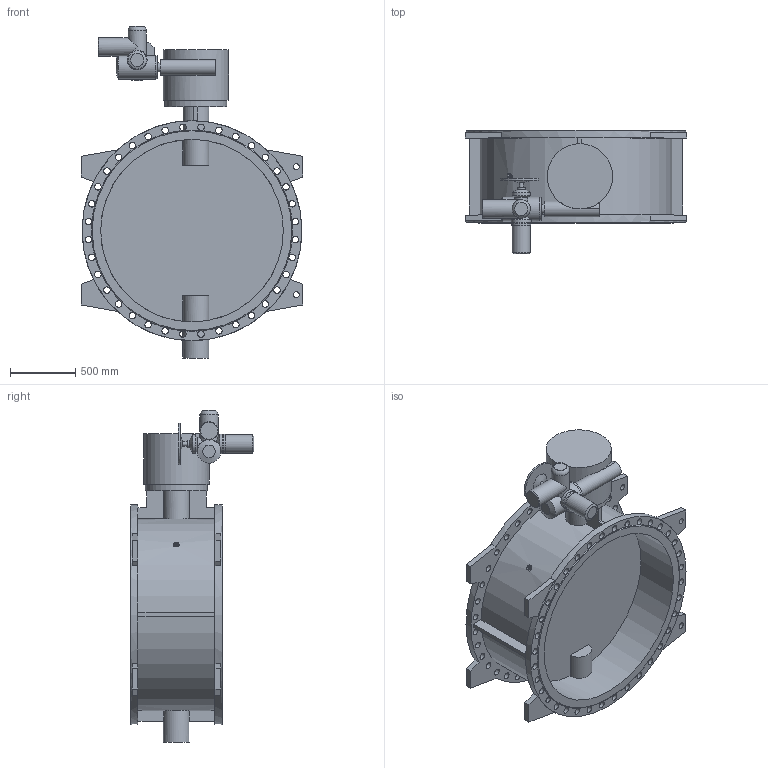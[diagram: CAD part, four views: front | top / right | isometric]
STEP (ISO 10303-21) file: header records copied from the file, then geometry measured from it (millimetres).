
FILE_DESCRIPTION(('STEP AP203'), '1');
FILE_NAME('Çàòâîð 023F.Z DN1400 PN16 + ðåäóêòîð + ÌÒ903.À30', '', ('UNSPECIFIED'), ('UNSPECIFIED'), 'ASCON STEP Converter 1.6', 'ASCON Math Kernel', '');
FILE_SCHEMA(('CONFIG_CONTROL_DESIGN'));
Length unit declared in the file: millimetre
Bounding box: 1700 x 949 x 2544 mm (x, y, z)
Volume: 473346768.9 mm3; surface area: 15095078.5 mm2
Topology: 1 solids, 1 shells, 272 faces, 816 edges, 514 vertices
Faces by surface type: cylinder 142, plane 118, cone 11, torus 1
Full cylindrical faces by diameter (mm): 14 x4, 18 x4, 32 x1, 33 x8, 39 x8, 45 x4, 50 x72, 60 x1, 70 x1, 100 x1, 120 x1, 140 x4, 147 x1, 151 x1, 175 x1, 180 x1, 200 x1, 475 x1, 500 x1, 1400 x2, 1685 x2
Entity records: 13144 total; most frequent: CARTESIAN_POINT 3432, DIRECTION 1631, ORIENTED_EDGE 1364, AXIS2_PLACEMENT_3D 716, EDGE_CURVE 682, EDGE_LOOP 591, VERTEX_POINT 513, CIRCLE 444
